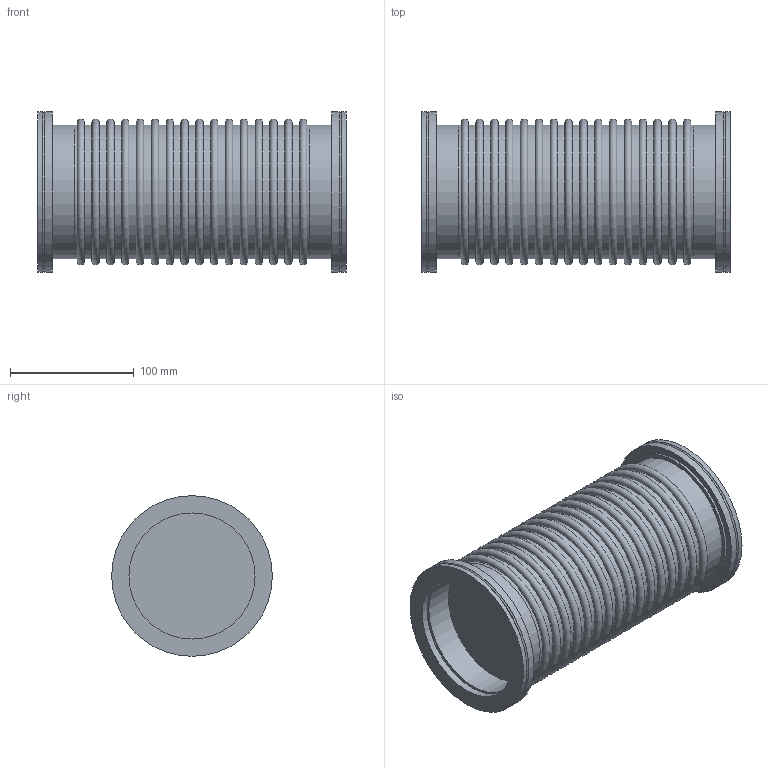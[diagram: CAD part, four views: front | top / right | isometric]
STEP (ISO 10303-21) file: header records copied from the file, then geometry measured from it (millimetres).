
FILE_DESCRIPTION( ( 'Unknown' ), '1' );
FILE_NAME( 'X:/Daten ( aktueller Bestand )/Projekte und Zeichnungen/Solid Edge/STP-Dateien/ISO-K Teile und Zubehör/69024U.stp', 'Unknown', ( 'Unknown' ), ( 'Unknown' ), 'PSStep 14.0', 'Unknown', ' ' );
FILE_SCHEMA( ( 'AUTOMOTIVE_DESIGN { 1 0 10303 214 1 1 1 1 }' ) );
Length unit declared in the file: millimetre
Products named in the file (8): 6512; 6522-1; 6902-1; Assem1_0; Assem1
Assembly tree (8 placements, depth 4):
  Assem1
    6902-1
      6902-1
    Assem1_0  x2
      6522-1
        6522-1
      6512
        6512
Bounding box: 250 x 130 x 130 mm (x, y, z)
Volume: 2030250.5 mm3; surface area: 212479.5 mm2
Topology: 5 solids, 5 shells, 69 faces, 121 edges, 68 vertices
Faces by surface type: cylinder 33, torus 18, plane 16, cone 2
Full cylindrical faces by diameter (mm): 102 x4, 108 x19, 108.5 x2, 115 x2, 125 x2, 130 x4
Entity records: 1632 total; most frequent: DIRECTION 232, CARTESIAN_POINT 167, AXIS2_PLACEMENT_3D 116, EDGE_LOOP 102, ORIENTED_EDGE 102, FACE_OUTER_BOUND 94, STYLED_ITEM 52, PRESENTATION_STYLE_ASSIGNMENT 52
